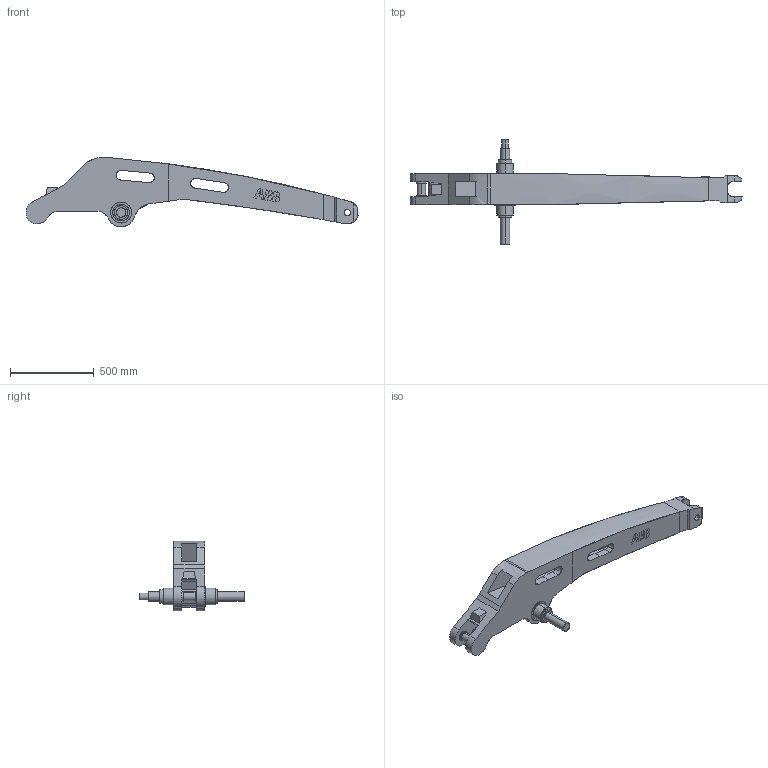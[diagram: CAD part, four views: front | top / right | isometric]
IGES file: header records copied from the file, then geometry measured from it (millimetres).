
Start section: SolidWorks IGES file using analytic representation for surfaces
Global section: file name: C:\Data\Lättmodeller\Nytt\660\IRB660_180-315_IRC5_rev03\IRB660_180-315_IRC5_rev03_IRC5_IGES_j\IRB660_180-315_LINK3a_CAD_rev03.IGS; native system: SolidWorks 2014; preprocessor: SolidWorks 2014; author: seadbov; date: 161202.130146; units: millimetre
Bounding box: 1982.14 x 624 x 415.29 mm (x, y, z)
Surface area: 2550887.6 mm2 (no closed solid volume)
Topology: 0 solids, 0 shells, 400 faces, 6013 edges, 6013 vertices
Faces by surface type: bspline 324, revolution 76
